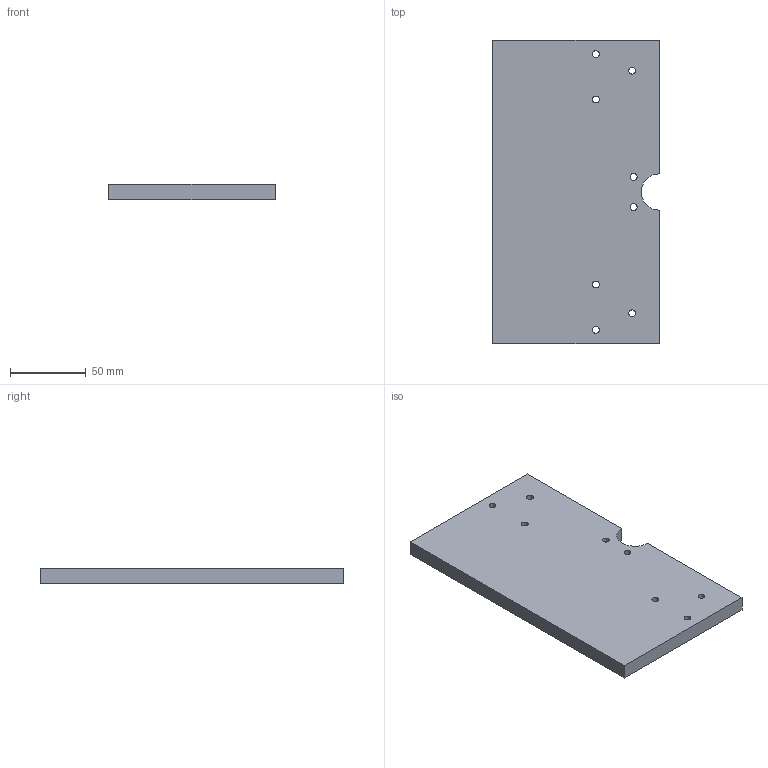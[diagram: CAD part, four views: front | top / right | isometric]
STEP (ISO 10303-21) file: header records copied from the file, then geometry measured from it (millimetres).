
FILE_DESCRIPTION(('Open CASCADE Model'),'2;1');
FILE_NAME('Open CASCADE Shape Model','2026-10-26T17:58:52',('Author'),( 'Open CASCADE'),'Open CASCADE STEP processor 7.9','Open CASCADE 7.9' ,'Unknown');
FILE_SCHEMA(('AUTOMOTIVE_DESIGN { 1 0 10303 214 1 1 1 1 }'));
Length unit declared in the file: millimetre
Products named in the file (1): Open CASCADE STEP translator 7.9 1
Bounding box: 109.85 x 200 x 10 mm (x, y, z)
Volume: 216201.7 mm3; surface area: 50702.3 mm2
Topology: 1 solids, 1 shells, 16 faces, 42 edges, 28 vertices
Faces by surface type: cylinder 9, plane 7
Full cylindrical faces by diameter (mm): 4.5 x8
Entity records: 1088 total; most frequent: CARTESIAN_POINT 175, DIRECTION 174, LINE 86, VECTOR 86, ORIENTED_EDGE 84, PCURVE 84, DEFINITIONAL_REPRESENTATION 84, EDGE_CURVE 42
